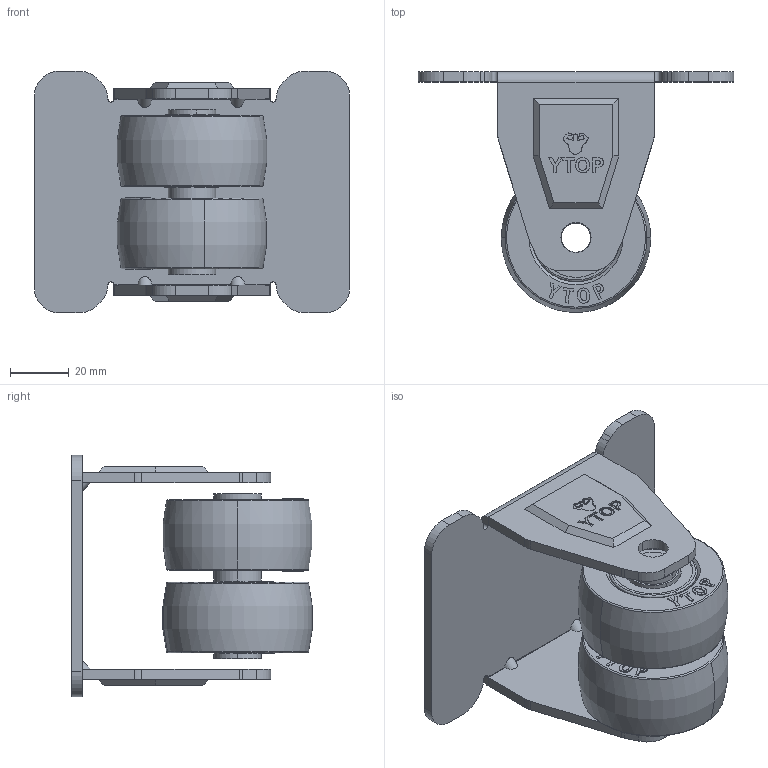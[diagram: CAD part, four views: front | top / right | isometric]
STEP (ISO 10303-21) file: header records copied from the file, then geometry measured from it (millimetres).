
FILE_DESCRIPTION (( 'STEP AP214' ), '1' );
FILE_NAME ('中重型低重心2寸固定轮.STEP', '2023-12-29T10:00:07', ( '' ), ( '' ), 'SwSTEP 2.0', 'SolidWorks 2016', '' );
FILE_SCHEMA (( 'AUTOMOTIVE_DESIGN' ));
Length unit declared in the file: millimetre
Products named in the file (1): 中重型低重心2寸固定轮
Bounding box: 107 x 81.6 x 82 mm (x, y, z)
Volume: 130159.5 mm3; surface area: 68928.1 mm2
Topology: 12 solids, 12 shells, 1222 faces, 3506 edges, 2300 vertices
Faces by surface type: plane 362, bspline 260, sphere 256, cylinder 180, torus 140, cone 24
Entity records: 68477 total; most frequent: CARTESIAN_POINT 25133, ORIENTED_EDGE 7012, DIRECTION 5128, EDGE_CURVE 3506, VERTEX_POINT 2300, AXIS2_PLACEMENT_3D 2031, EDGE_LOOP 1368, B_SPLINE_CURVE_WITH_KNOTS 1364
